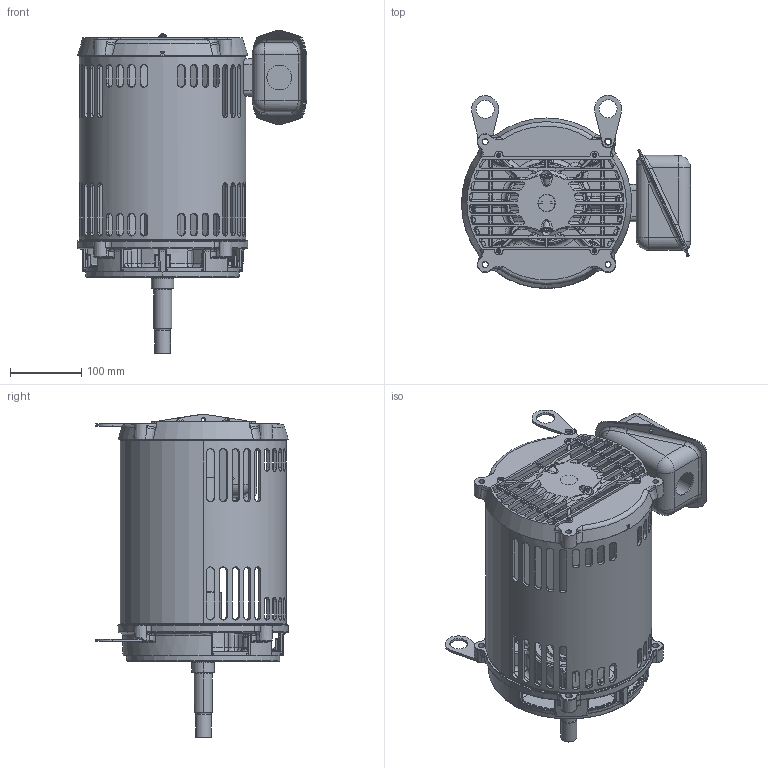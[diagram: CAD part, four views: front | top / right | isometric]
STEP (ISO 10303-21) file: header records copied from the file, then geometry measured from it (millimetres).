
FILE_DESCRIPTION((''),'2;1');
FILE_NAME('215_CCP_ASSY_ASM','2016-03-24T',('emd2341'),('Nidec Motor Corporation'),'PRO/ENGINEER BY PARAMETRIC TECHNOLOGY CORPORATION, 2013150','PRO/ENGINEER BY PARAMETRIC TECHNOLOGY CORPORATION, 2013150','');
FILE_SCHEMA(('CONFIG_CONTROL_DESIGN'));
Length unit declared in the file: inch
Products named in the file (14): 213_FRAME; 0391764-BKT_AF0; 0298010_AF0; 0391765_ASM; 0934404-BKT_AF0; 0362224_AF0; 0449861_ASM; 0172877; 0945097; 0390418; 0376890; 0398344; 0398343; 215_CCP_ASSY_ASM
Assembly tree (14 placements, depth 3):
  215_CCP_ASSY_ASM
    213_FRAME
    0391765_ASM
      0391764-BKT_AF0
      0298010_AF0
    0449861_ASM
      0934404-BKT_AF0
      0362224_AF0
    0172877
    0945097
    0390418
    0376890  x2
    0398344
    0398343
Bounding box: 322.28 x 271.23 x 455.22 mm (x, y, z)
Volume: 2348660.9 mm3; surface area: 955250.8 mm2
Topology: 14 solids, 14 shells, 2363 faces, 6061 edges, 3712 vertices
Faces by surface type: bspline 582, plane 543, cylinder 513, cone 413, torus 242, sphere 70
Entity records: 98466 total; most frequent: CARTESIAN_POINT 45382, ORIENTED_EDGE 12066, DIRECTION 9803, EDGE_CURVE 6033, AXIS2_PLACEMENT_3D 3922, VERTEX_POINT 3696, EDGE_LOOP 2563, FACE_OUTER_BOUND 2353
